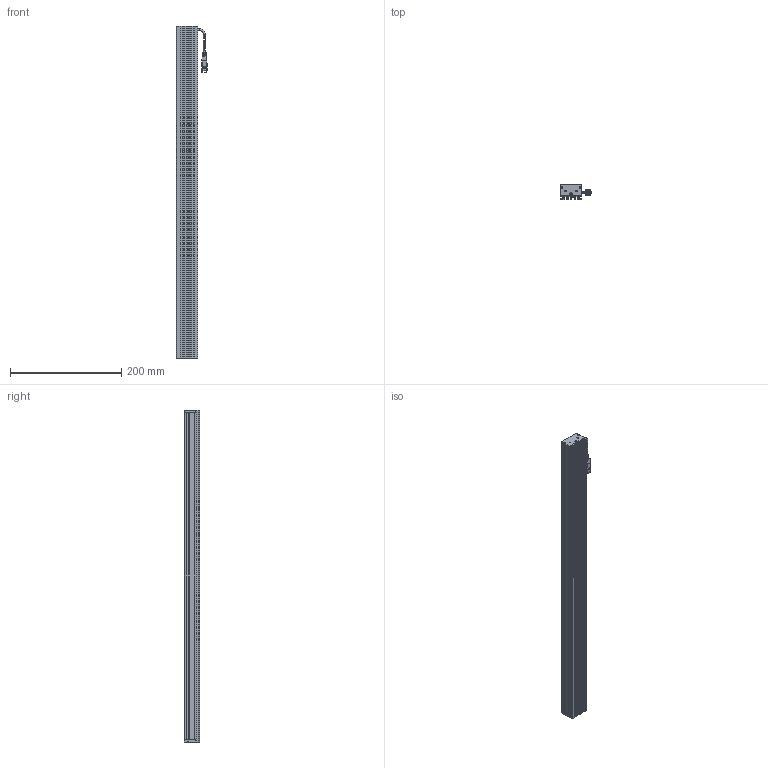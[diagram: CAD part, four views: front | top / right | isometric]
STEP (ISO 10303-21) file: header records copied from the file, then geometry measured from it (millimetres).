
FILE_DESCRIPTION (( 'STEP AP203' ), '1' );
FILE_NAME ('CK-BL59738.STEP', '2026-01-28T05:48:14', ( '' ), ( '' ), 'SwSTEP 2.0', 'SolidWorks 2022', '' );
FILE_SCHEMA (( 'CONFIG_CONTROL_DESIGN' ));
Length unit declared in the file: millimetre
Products named in the file (6): 十字沉头螺丝 M2x10; CK59738-001A; CK-BL59738-003A; CK-BL59738-002A; CK-BL59738; 光源线
Assembly tree (11 placements, depth 2):
  CK-BL59738
    CK59738-001A
    CK-BL59738-002A  x2
    CK-BL59738-003A
    光源线
    十字沉头螺丝 M2x10  x6
Bounding box: 55.84 x 27 x 597 mm (x, y, z)
Volume: 243332.8 mm3; surface area: 209785.5 mm2
Topology: 13 solids, 13 shells, 641 faces, 1692 edges, 1082 vertices
Faces by surface type: plane 353, cylinder 210, cone 46, bspline 32
Entity records: 16373 total; most frequent: CARTESIAN_POINT 3399, ORIENTED_EDGE 2598, DIRECTION 2515, EDGE_CURVE 1299, VECTOR 875, LINE 875, VERTEX_POINT 846, AXIS2_PLACEMENT_3D 820
